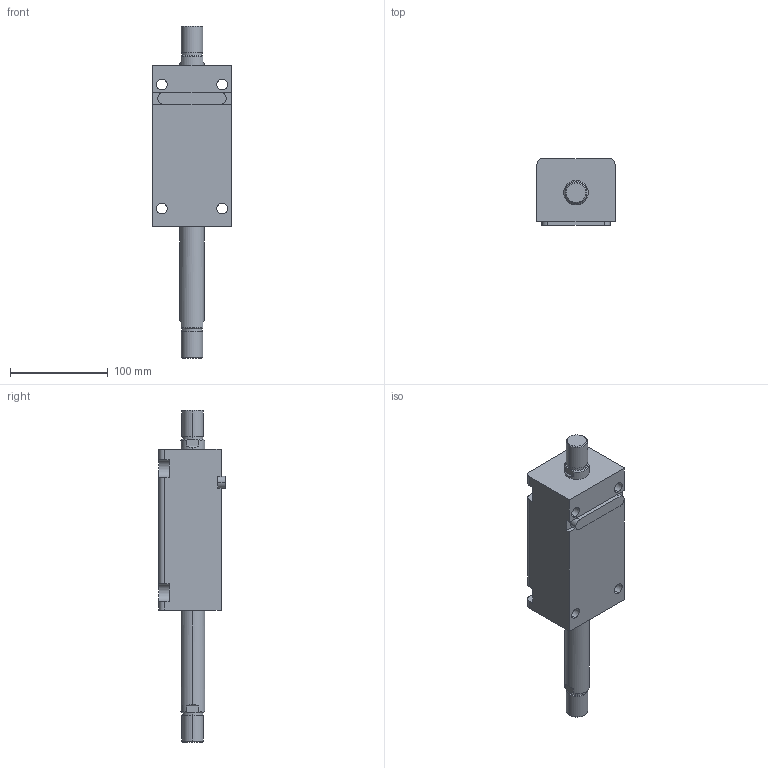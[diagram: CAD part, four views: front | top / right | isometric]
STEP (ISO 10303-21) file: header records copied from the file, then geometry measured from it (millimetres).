
FILE_DESCRIPTION (( 'STEP AP203' ), '1' );
FILE_NAME ('HTB-LW40-95W.STEP', '2019-10-09T07:59:40', ( '微软用户' ), ( '微软中国' ), 'SwSTEP 2.0', 'SolidWorks 2012', '' );
FILE_SCHEMA (( 'CONFIG_CONTROL_DESIGN' ));
Length unit declared in the file: millimetre
Products named in the file (4): HTB-LW40-95W; HTB-LA40-瑩; HTB-LW40-95W活塞杆; HTB-LW40-95掛极
Assembly tree (3 placements, depth 2):
  HTB-LW40-95W
    HTB-LW40-95掛极
    HTB-LW40-95W活塞杆
    HTB-LA40-瑩
Bounding box: 80 x 68.5 x 340 mm (x, y, z)
Volume: 816550.5 mm3; surface area: 116981.9 mm2
Topology: 3 solids, 3 shells, 113 faces, 273 edges, 178 vertices
Faces by surface type: plane 48, cylinder 45, cone 12, torus 8
Entity records: 3779 total; most frequent: CARTESIAN_POINT 622, DIRECTION 617, ORIENTED_EDGE 546, EDGE_CURVE 273, AXIS2_PLACEMENT_3D 241, VERTEX_POINT 178, EDGE_LOOP 135, VECTOR 135
